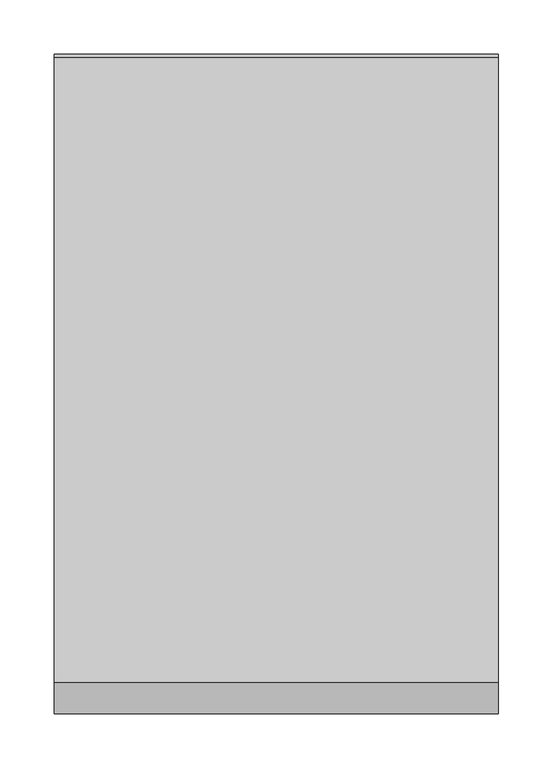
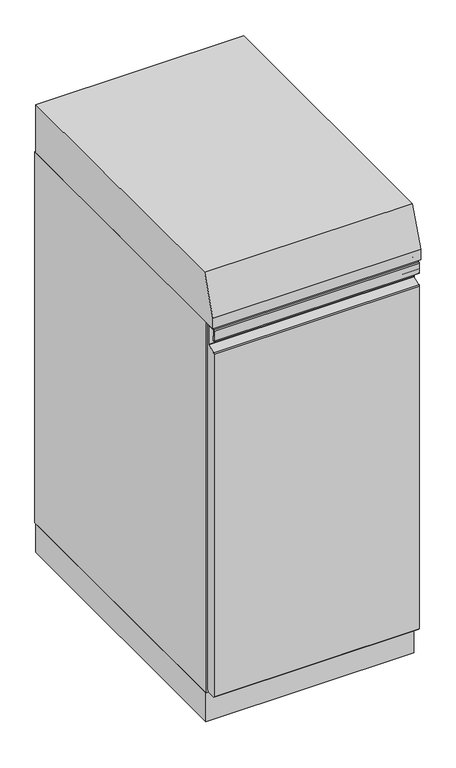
"""IFC4 building model written with IfcOpenShell, lengths in millimetres: proxy geometry, 13101230_EU1_OSP1216WBL : 331B1PSW_EU1_13101230_OSP1216WBL."""

from ifc_helpers import new_model, si_unit, point, frame, frame_2d, origin, origin_with_axes, place, context, project, spatial, polyline, circle_curve, trimmed, segment, composite_curve, outline, extrude, faceted_brep, source, transform, mapped, element, save


def specialty_equipment_bb8b7e9e(model_context):
    return source(origin(), model_context, "Body", "SolidModel", [
        extrude(outline(composite_curve([segment(polyline([(2.6999996, 823.5), (2.6999996, 814.5999985)]), True, "CONTINUOUS"), segment(trimmed(circle_curve(frame_2d((1.5999996, 814.5999985)), 1.1), [point((2.6999996, 814.5999985))], [point((0.4999996, 814.5999985))], False, "CARTESIAN"), True, "CONTINUOUS"), segment(polyline([(0.4999996, 814.5999985), (0.4999996, 835.0000001)]), True, "CONTINUOUS"), segment(trimmed(circle_curve(frame_2d((2.4999995, 835.0000001)), 1.9999999), [point((0.4999996, 835.0000001))], [point((2.4999995, 837.0))], False, "CARTESIAN"), True, "CONTINUOUS"), segment(polyline([(2.4999995, 837.0), (21.0, 837.0)]), True, "CONTINUOUS"), segment(trimmed(circle_curve(frame_2d((21.0, 835.0)), 2.0), [point((21.0, 837.0))], [point((23.0, 835.0))], False, "CARTESIAN"), True, "CONTINUOUS"), segment(polyline([(23.0, 835.0), (23.0, 78.1000214), (19.5, 72.5), (2.4999995, 72.5), (0.4999996, 74.4999999), (0.4999996, 787.6206147)]), True, "CONTINUOUS"), segment(trimmed(circle_curve(frame_2d((2.4999996, 787.6206147)), 2.0), [point((0.4999996, 787.6206147))], [point((1.8159593, 789.5))], False, "CARTESIAN"), True, "CONTINUOUS"), segment(polyline([(1.8159593, 789.5), (18.8147235, 795.6870442)]), True, "CONTINUOUS"), segment(trimmed(circle_curve(frame_2d((18.8147235, 796.3723207)), 0.6852765), [point((18.8147235, 795.6870442))], [point((19.5, 796.3723207))], True, "CARTESIAN"), True, "CONTINUOUS"), segment(polyline([(19.5, 796.3723207), (19.5, 833.5), (20.5, 833.5), (20.5, 835.0)]), True, "CONTINUOUS"), segment(trimmed(circle_curve(frame_2d((19.5, 835.0)), 1.0), [point((20.5, 835.0))], [point((19.5, 836.0))], True, "CARTESIAN"), True, "CONTINUOUS"), segment(polyline([(19.5, 836.0), (2.4999995, 836.0)]), True, "CONTINUOUS"), segment(trimmed(circle_curve(frame_2d((2.4999995, 835.0000001)), 0.9999999), [point((2.4999995, 836.0))], [point((1.4999996, 835.0000001))], True, "CARTESIAN"), True, "CONTINUOUS"), segment(polyline([(1.4999996, 835.0000001), (1.4999996, 823.5), (2.6999996, 823.5)]), True, "CONTINUOUS")], self_intersect=False)), frame((-202.0, 0.0, 0.0), z_axis=(1.0, 0.0, 0.0), x_axis=(0.0, 1.0, 0.0)), (0.0, 0.0, 1.0), 404.0),
        extrude(outline(polyline([(28.370519, 941.5), (603.9999916, 941.5), (603.9999916, 841.5), (0.0, 841.5), (0.0, 863.5526396), (28.370519, 941.5)])), frame((-204.5, 0.0, 0.0), z_axis=(1.0, 0.0, 0.0), x_axis=(0.0, 1.0, 0.0)), (0.0, 0.0, 1.0), 409.0),
        extrude(outline(composite_curve([segment(trimmed(circle_curve(frame_2d((128.0, 73.5499878)), 30.0268488), [point((97.9731512, 73.5499878))], [point((158.0268488, 73.5499878))], False, "CARTESIAN"), True, "CONTINUOUS"), segment(trimmed(circle_curve(frame_2d((128.0, 73.5499878)), 30.0268488), [point((158.0268488, 73.5499878))], [point((97.9731512, 73.5499878))], False, "CARTESIAN"), True, "CONTINUOUS")], self_intersect=False)), origin_with_axes(), (0.0, 0.0, 1.0), 69.5),
        extrude(outline(composite_curve([segment(trimmed(circle_curve(frame_2d((-128.0, 73.5499878)), 30.0268488), [point((-158.0268488, 73.5499878))], [point((-97.9731512, 73.5499878))], False, "CARTESIAN"), True, "CONTINUOUS"), segment(trimmed(circle_curve(frame_2d((-128.0, 73.5499878)), 30.0268488), [point((-97.9731512, 73.5499878))], [point((-158.0268488, 73.5499878))], False, "CARTESIAN"), True, "CONTINUOUS")], self_intersect=False)), origin_with_axes(), (0.0, 0.0, 1.0), 69.5),
        extrude(outline(composite_curve([segment(trimmed(circle_curve(frame_2d((128.0, 552.5864926)), 30.0), [point((98.0, 552.5864926))], [point((158.0, 552.5864926))], False, "CARTESIAN"), True, "CONTINUOUS"), segment(trimmed(circle_curve(frame_2d((128.0, 552.5864926)), 30.0), [point((158.0, 552.5864926))], [point((98.0, 552.5864926))], False, "CARTESIAN"), True, "CONTINUOUS")], self_intersect=False)), origin_with_axes(), (0.0, 0.0, 1.0), 69.5),
        extrude(outline(composite_curve([segment(trimmed(circle_curve(frame_2d((-128.0, 552.5864926)), 30.0), [point((-158.0, 552.5864926))], [point((-98.0, 552.5864926))], False, "CARTESIAN"), True, "CONTINUOUS"), segment(trimmed(circle_curve(frame_2d((-128.0, 552.5864926)), 30.0), [point((-98.0, 552.5864926))], [point((-158.0, 552.5864926))], False, "CARTESIAN"), True, "CONTINUOUS")], self_intersect=False)), origin_with_axes(), (0.0, 0.0, 1.0), 69.5),
        extrude(outline(composite_curve([segment(trimmed(circle_curve(frame_2d((25.0028687, -176.0)), 25.0), [point((25.0028687, -201.0))], [point((25.0028687, -151.0))], False, "CARTESIAN"), True, "CONTINUOUS"), segment(trimmed(circle_curve(frame_2d((25.0028687, -176.0)), 25.0), [point((25.0028687, -151.0))], [point((25.0028687, -201.0))], False, "CARTESIAN"), True, "CONTINUOUS")], self_intersect=False)), frame((0.0, 61.0499878, 0.0), z_axis=(0.0, 1.0, 0.0), x_axis=(0.0, 0.0, 1.0)), (0.0, 0.0, 1.0), 25.0),
        extrude(outline(composite_curve([segment(trimmed(circle_curve(frame_2d((25.0028687, -176.0)), 25.0), [point((25.0028687, -201.0))], [point((25.0028687, -151.0))], False, "CARTESIAN"), True, "CONTINUOUS"), segment(trimmed(circle_curve(frame_2d((25.0028687, -176.0)), 25.0), [point((25.0028687, -151.0))], [point((25.0028687, -201.0))], False, "CARTESIAN"), True, "CONTINUOUS")], self_intersect=False)), frame((0.0, 540.0864926, 0.0), z_axis=(0.0, 1.0, 0.0), x_axis=(0.0, 0.0, 1.0)), (0.0, 0.0, 1.0), 25.0),
        extrude(outline(composite_curve([segment(trimmed(circle_curve(frame_2d((25.0028687, 176.0)), 25.0), [point((25.0028687, 201.0))], [point((25.0028687, 151.0))], False, "CARTESIAN"), True, "CONTINUOUS"), segment(trimmed(circle_curve(frame_2d((25.0028687, 176.0)), 25.0), [point((25.0028687, 151.0))], [point((25.0028687, 201.0))], False, "CARTESIAN"), True, "CONTINUOUS")], self_intersect=False)), frame((0.0, 61.0499878, 0.0), z_axis=(0.0, 1.0, 0.0), x_axis=(0.0, 0.0, 1.0)), (0.0, 0.0, 1.0), 25.0),
        extrude(outline(composite_curve([segment(trimmed(circle_curve(frame_2d((25.0029118, 176.0464698)), 25.0), [point((25.0029118, 201.0464698))], [point((25.0029118, 151.0464698))], False, "CARTESIAN"), True, "CONTINUOUS"), segment(trimmed(circle_curve(frame_2d((25.0029118, 176.0464698)), 25.0), [point((25.0029118, 151.0464698))], [point((25.0029118, 201.0464698))], False, "CARTESIAN"), True, "CONTINUOUS")], self_intersect=False)), frame((0.0, 540.0499878, 0.0), z_axis=(0.0, 1.0, 0.0), x_axis=(0.0, 0.0, 1.0)), (0.0, 0.0, 1.0), 25.0),
        faceted_brep([(165.0022624, 51.0927658, 462.1369934), (165.0022624, 51.0927658, 556.1727893), (-165.0022624, 51.0927658, 556.1727893), (-165.0022624, 51.0927658, 462.1369934), (165.0022624, 602.5, 462.1369934), (-165.0022624, 602.5, 462.1369934), (-165.0022624, 602.5, 556.1727893), (165.0022624, 602.5, 556.1727893), (162.0022624, 53.1355045, 556.1727893), (-162.0022624, 53.1355045, 556.1727893), (-162.0022624, 600.5, 556.1727893), (162.0022624, 600.5, 556.1727893), (162.0022624, 53.1355045, 464.1369934), (-162.0022624, 53.1355045, 464.1369934), (-162.0022624, 600.5, 464.1369934), (162.0022624, 600.5, 464.1369934)], [[[0, 1, 2, 3]], [[4, 5, 6, 7]], [[1, 0, 4, 7]], [[2, 1, 7, 6], [8, 9, 10, 11]], [[3, 2, 6, 5]], [[0, 3, 5, 4]], [[12, 13, 9, 8]], [[14, 15, 11, 10]], [[13, 14, 10, 9]], [[13, 12, 15, 14]], [[15, 12, 8, 11]]]),
        faceted_brep([(165.0022624, 51.0927658, 279.1370239), (165.0022624, 51.0927658, 373.1728198), (-165.0022624, 51.0927658, 373.1728198), (-165.0022624, 51.0927658, 279.1370239), (165.0022624, 602.5, 279.1370239), (-165.0022624, 602.5, 279.1370239), (-165.0022624, 602.5, 373.1728198), (165.0022624, 602.5, 373.1728198), (162.0022624, 53.1355045, 373.1728198), (-162.0022624, 53.1355045, 373.1728198), (-162.0022624, 600.5, 373.1728198), (162.0022624, 600.5, 373.1728198), (162.0022624, 53.1355045, 281.1370239), (-162.0022624, 53.1355045, 281.1370239), (-162.0022624, 600.5, 281.1370239), (162.0022624, 600.5, 281.1370239)], [[[0, 1, 2, 3]], [[4, 5, 6, 7]], [[1, 0, 4, 7]], [[2, 1, 7, 6], [8, 9, 10, 11]], [[3, 2, 6, 5]], [[0, 3, 5, 4]], [[12, 13, 9, 8]], [[14, 15, 11, 10]], [[13, 14, 10, 9]], [[13, 12, 15, 14]], [[15, 12, 8, 11]]]),
        faceted_brep([(165.0022624, 51.0927658, 110.1370239), (165.0022624, 51.0927658, 204.1728198), (-165.0022624, 51.0927658, 204.1728198), (-165.0022624, 51.0927658, 110.1370239), (165.0022624, 602.5, 110.1370239), (-165.0022624, 602.5, 110.1370239), (-165.0022624, 602.5, 204.1728198), (165.0022624, 602.5, 204.1728198), (162.0022624, 53.1355045, 204.1728198), (-162.0022624, 53.1355045, 204.1728198), (-162.0022624, 600.5, 204.1728198), (162.0022624, 600.5, 204.1728198), (162.0022624, 53.1355045, 112.1370239), (-162.0022624, 53.1355045, 112.1370239), (-162.0022624, 600.5, 112.1370239), (162.0022624, 600.5, 112.1370239)], [[[0, 1, 2, 3]], [[4, 5, 6, 7]], [[1, 0, 4, 7]], [[2, 1, 7, 6], [8, 9, 10, 11]], [[3, 2, 6, 5]], [[0, 3, 5, 4]], [[12, 13, 9, 8]], [[14, 15, 11, 10]], [[13, 14, 10, 9]], [[13, 12, 15, 14]], [[15, 12, 8, 11]]]),
        faceted_brep([(204.5, 607.0365048, 841.5), (204.5, 607.0365048, 69.5), (-204.5, 607.0365048, 69.5), (-204.5, 607.0365048, 841.5), (204.5, 23.0, 841.5), (-204.5, 23.0, 841.5), (-204.5, 23.0, 69.5), (204.5, 23.0, 69.5), (-178.5, 23.0, 695.5), (178.5, 23.0, 695.5), (178.5, 23.0, 100.5), (-178.5, 23.0, 100.5), (178.5, 602.5365048, 695.5), (-178.5, 602.5365048, 695.5), (-178.5, 602.5365048, 100.5), (178.5, 602.5365048, 100.5)], [[[0, 1, 2, 3]], [[4, 5, 6, 7], [8, 9, 10, 11]], [[0, 3, 5, 4]], [[3, 2, 6, 5]], [[2, 1, 7, 6]], [[1, 0, 4, 7]], [[12, 13, 14, 15]], [[13, 12, 9, 8]], [[14, 13, 8, 11]], [[15, 14, 11, 10]], [[12, 15, 10, 9]]]),
        extrude(outline(polyline([(204.5, 604.1365048), (204.5, 24.0), (-204.5, 24.0), (-204.5, 604.1365048), (204.5, 604.1365048)]), holes=[polyline([(-196.5, 39.0), (196.5, 38.5000004), (196.5, 589.1365048), (-196.5, 589.1365048), (-196.5, 39.0)])]), frame((0.0, 0.0, 9.5), z_axis=(0.0, 0.0, 1.0), x_axis=(1.0, 0.0, 0.0)), (0.0, 0.0, 1.0), 60.0),
    ])


if __name__ == "__main__":
    model = new_model("IFC4")
    model_context = context("Model", 3, world=origin())
    ifc_project = project(units=[si_unit("LENGTHUNIT", "METRE", prefix="MILLI")], contexts=[model_context])
    site = spatial("IfcSite", under=ifc_project)
    building = spatial("IfcBuilding", under=site)
    placement = place(None, origin())
    specialty_equipment_shape = specialty_equipment_bb8b7e9e(model_context)
    element("IfcBuildingElementProxy", 1, Name="13101230_EU1_OSP1216WBL : 331B1PSW_EU1_13101230_OSP1216WBL", ObjectType="13101230_EU1_OSP1216WBL : 331B1PSW_EU1_13101230_OSP1216WBL", at=placement, inside=building, context=model_context, shape_type="MappedRepresentation", body=[
        mapped(specialty_equipment_shape, transform((0.0, 0.0, 0.0), x_axis=(1.0, 0.0, 0.0), y_axis=(0.0, 1.0, 0.0), z_axis=(0.0, 0.0, 1.0))),
    ])
    save(model, "model.ifc")
